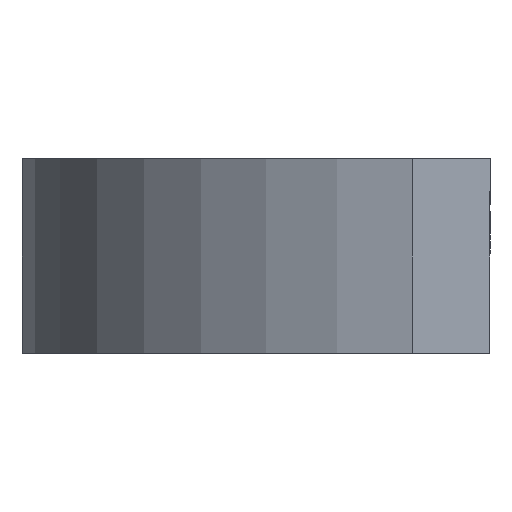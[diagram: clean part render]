
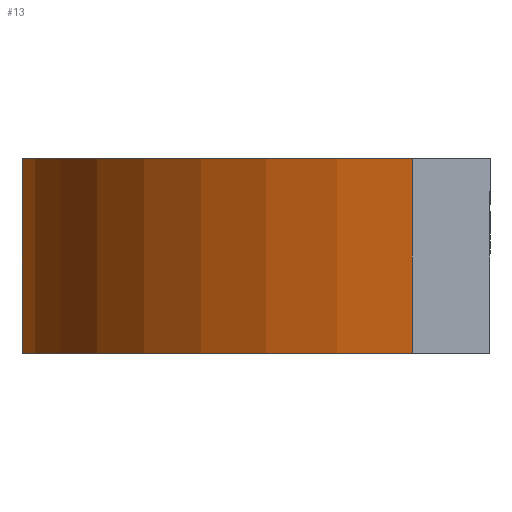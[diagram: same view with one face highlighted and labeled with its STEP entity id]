
A CAD part, left-side view. The second image highlights one B-rep face of the part: STEP entity #13.
In plain terms, the highlighted cylindrical face has radius 35.56 mm (diameter 71.12 mm), a partial arc.
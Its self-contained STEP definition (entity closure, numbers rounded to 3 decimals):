
#13 = ADVANCED_FACE ( 'NONE', ( #567 ), #406, .T. ) ;
#58 = CARTESIAN_POINT ( 'NONE',  ( -35.05, 6., -5.35 ) ) ;
#65 = DIRECTION ( 'NONE',  ( 0., 0., -1. ) ) ;
#112 = CARTESIAN_POINT ( 'NONE',  ( -35.05, 6., -20.05 ) ) ;
#118 = DIRECTION ( 'NONE',  ( -1., 0., 0. ) ) ;
#126 = LINE ( 'NONE', #342, #266 ) ;
#127 = EDGE_LOOP ( 'NONE', ( #625, #326, #164, #146 ) ) ;
#134 = DIRECTION ( 'NONE',  ( 0., 0., 1. ) ) ;
#146 = ORIENTED_EDGE ( 'NONE', *, *, #195, .T. ) ;
#162 = CARTESIAN_POINT ( 'NONE',  ( 0., 0., -20.05 ) ) ;
#164 = ORIENTED_EDGE ( 'NONE', *, *, #392, .T. ) ;
#172 = VERTEX_POINT ( 'NONE', #112 ) ;
#187 = AXIS2_PLACEMENT_3D ( 'NONE', #331, #590, #118 ) ;
#195 = EDGE_CURVE ( 'NONE', #662, #500, #487, .T. ) ;
#197 = DIRECTION ( 'NONE',  ( -1., 0., 0. ) ) ;
#229 = DIRECTION ( 'NONE',  ( 0., 0., -1. ) ) ;
#239 = EDGE_CURVE ( 'NONE', #500, #360, #126, .T. ) ;
#249 = LINE ( 'NONE', #624, #456 ) ;
#266 = VECTOR ( 'NONE', #229, 1000. ) ;
#312 = AXIS2_PLACEMENT_3D ( 'NONE', #162, #65, #607 ) ;
#326 = ORIENTED_EDGE ( 'NONE', *, *, #663, .F. ) ;
#331 = CARTESIAN_POINT ( 'NONE',  ( 0., 0., -5.35 ) ) ;
#342 = CARTESIAN_POINT ( 'NONE',  ( 35.05, 6., -6.35 ) ) ;
#360 = VERTEX_POINT ( 'NONE', #453 ) ;
#392 = EDGE_CURVE ( 'NONE', #172, #662, #249, .T. ) ;
#406 = CYLINDRICAL_SURFACE ( 'NONE', #602, 35.56 ) ;
#411 = CIRCLE ( 'NONE', #312, 35.56 ) ;
#453 = CARTESIAN_POINT ( 'NONE',  ( 35.05, 6., -20.05 ) ) ;
#456 = VECTOR ( 'NONE', #134, 1000. ) ;
#487 = CIRCLE ( 'NONE', #187, 35.56 ) ;
#500 = VERTEX_POINT ( 'NONE', #622 ) ;
#514 = CARTESIAN_POINT ( 'NONE',  ( 0., 0., -6.35 ) ) ;
#517 = DIRECTION ( 'NONE',  ( 0., 0., -1. ) ) ;
#567 = FACE_OUTER_BOUND ( 'NONE', #127, .T. ) ;
#590 = DIRECTION ( 'NONE',  ( 0., 0., -1. ) ) ;
#602 = AXIS2_PLACEMENT_3D ( 'NONE', #514, #517, #197 ) ;
#607 = DIRECTION ( 'NONE',  ( -1., 0., 0. ) ) ;
#622 = CARTESIAN_POINT ( 'NONE',  ( 35.05, 6., -5.35 ) ) ;
#624 = CARTESIAN_POINT ( 'NONE',  ( -35.05, 6., -6.35 ) ) ;
#625 = ORIENTED_EDGE ( 'NONE', *, *, #239, .T. ) ;
#662 = VERTEX_POINT ( 'NONE', #58 ) ;
#663 = EDGE_CURVE ( 'NONE', #172, #360, #411, .T. ) ;
